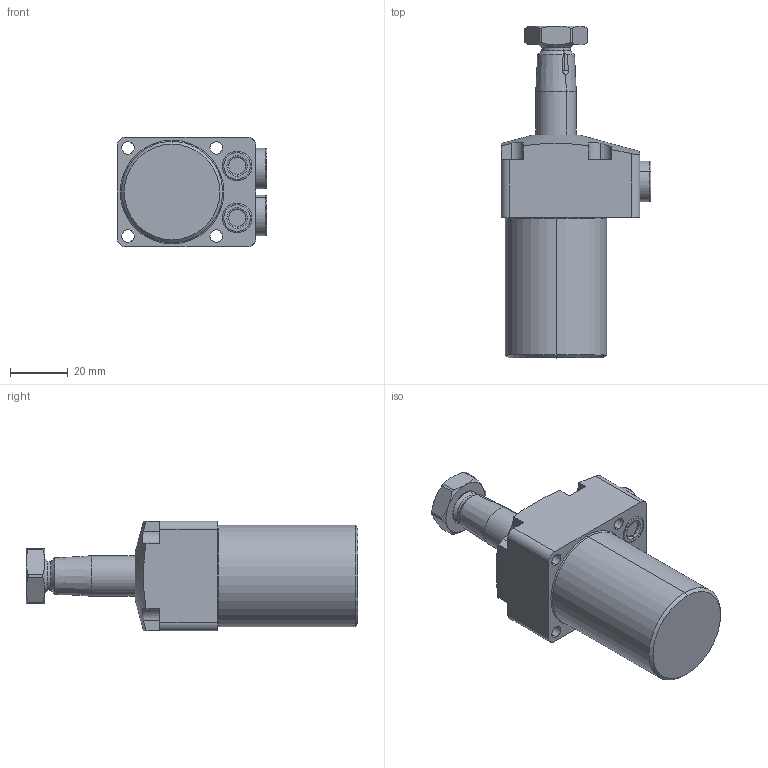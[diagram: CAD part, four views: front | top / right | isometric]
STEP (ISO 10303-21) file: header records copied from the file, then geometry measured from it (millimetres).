
FILE_DESCRIPTION(/* description */ (''),/* implementation_level */ '2;1');
FILE_NAME(/* name */ 'TRC01-LN60.stp',/* time_stamp */ '2025-01-04T10:07:01+08:00',/* author */ (''),/* organization */ (''),/* preprocessor_version */ 'ST-DEVELOPER v16.7',/* originating_system */ 'SIEMENS PLM Software NX 12.0',/* authorisation */ '');
FILE_SCHEMA (('AUTOMOTIVE_DESIGN { 1 0 10303 214 3 1 1 1 }'));
Length unit declared in the file: millimetre
Products named in the file (5): TRC01-LN60-01; TRC01-LN60-02; TRC01-LN60-03; TRC01-LN60-04; TRC01-LN60_stp
Assembly tree (5 placements, depth 2):
  TRC01-LN60_stp
    TRC01-LN60-04  x2
    TRC01-LN60-03
    TRC01-LN60-02
    TRC01-LN60-01
Bounding box: 51.8 x 114.7 x 38 mm (x, y, z)
Volume: 96092.8 mm3; surface area: 20402.2 mm2
Topology: 7 solids, 7 shells, 203 faces, 457 edges, 280 vertices
Faces by surface type: cylinder 73, plane 67, cone 40, torus 22, sphere 1
Entity records: 5425 total; most frequent: CARTESIAN_POINT 1151, DIRECTION 922, ORIENTED_EDGE 820, EDGE_CURVE 410, AXIS2_PLACEMENT_3D 378, VERTEX_POINT 252, EDGE_LOOP 206, CIRCLE 191
